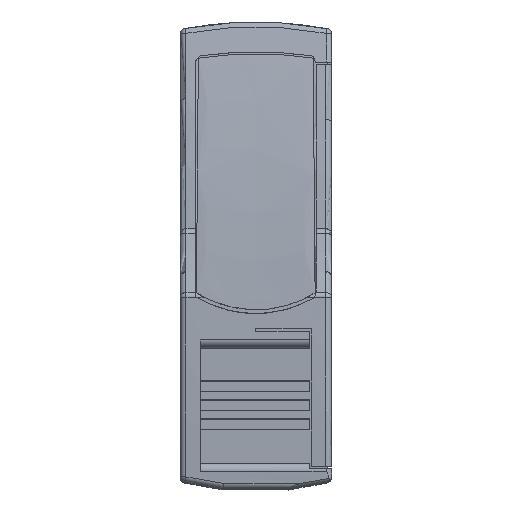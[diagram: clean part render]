
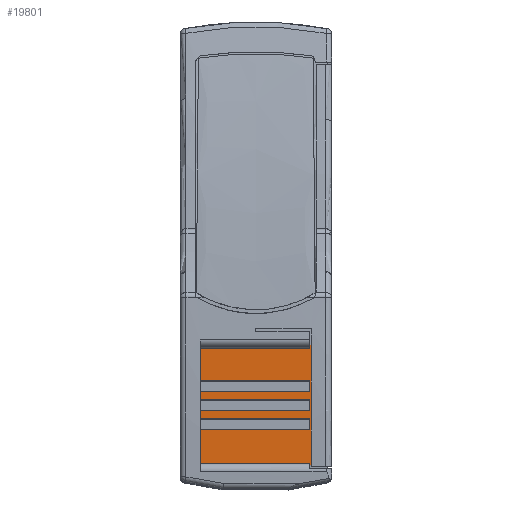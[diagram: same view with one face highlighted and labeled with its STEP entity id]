
A CAD part, top view. The second image highlights one B-rep face of the part: STEP entity #19801.
In plain terms, the highlighted planar face has unit normal (0, -0.052, 0.999).
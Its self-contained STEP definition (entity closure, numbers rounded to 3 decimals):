
#4701=DIRECTION('',(0.,-0.999,-0.052));
#4702=VECTOR('',#4701,0.5);
#4703=CARTESIAN_POINT('',(-2.9,-6.809,60.171));
#4704=LINE('',#4703,#4702);
#4717=DIRECTION('',(0.,-0.999,-0.052));
#4718=VECTOR('',#4717,0.5);
#4719=CARTESIAN_POINT('',(-2.9,-7.808,60.118));
#4720=LINE('',#4719,#4718);
#4733=DIRECTION('',(0.,-0.999,-0.052));
#4734=VECTOR('',#4733,1.913);
#4735=CARTESIAN_POINT('',(-2.9,-8.806,60.066));
#4736=LINE('',#4735,#4734);
#4778=DIRECTION('',(0.,-0.999,-0.052));
#4779=VECTOR('',#4778,1.913);
#4780=CARTESIAN_POINT('',(-2.9,-4.4,60.297));
#4781=LINE('',#4780,#4779);
#4782=DIRECTION('',(-1.,0.,0.));
#4783=VECTOR('',#4782,5.7);
#4784=CARTESIAN_POINT('',(2.8,-6.31,60.197));
#4785=LINE('',#4784,#4783);
#4786=DIRECTION('',(-1.,0.,0.));
#4787=VECTOR('',#4786,5.8);
#4788=CARTESIAN_POINT('',(2.9,-10.716,59.966));
#4789=LINE('',#4788,#4787);
#4790=DIRECTION('',(0.,-0.999,-0.052));
#4791=VECTOR('',#4790,0.5);
#4792=CARTESIAN_POINT('',(2.8,-6.31,60.197));
#4793=LINE('',#4792,#4791);
#4806=DIRECTION('',(1.,0.,0.));
#4807=VECTOR('',#4806,5.7);
#4808=CARTESIAN_POINT('',(-2.9,-6.809,60.171));
#4809=LINE('',#4808,#4807);
#4818=DIRECTION('',(-1.,0.,0.));
#4819=VECTOR('',#4818,5.8);
#4820=CARTESIAN_POINT('',(2.9,-4.4,60.297));
#4821=LINE('',#4820,#4819);
#4920=DIRECTION('',(0.,0.999,0.052));
#4921=VECTOR('',#4920,6.325);
#4922=CARTESIAN_POINT('',(2.9,-10.716,59.966));
#4923=LINE('',#4922,#4921);
#5969=DIRECTION('',(1.,0.,0.));
#5970=VECTOR('',#5969,5.7);
#5971=CARTESIAN_POINT('',(-2.9,-8.806,60.066));
#5972=LINE('',#5971,#5970);
#5977=DIRECTION('',(0.,-0.999,-0.052));
#5978=VECTOR('',#5977,0.5);
#5979=CARTESIAN_POINT('',(2.8,-8.307,60.092));
#5980=LINE('',#5979,#5978);
#5997=DIRECTION('',(-1.,0.,0.));
#5998=VECTOR('',#5997,5.7);
#5999=CARTESIAN_POINT('',(2.8,-8.307,60.092));
#6000=LINE('',#5999,#5998);
#6001=DIRECTION('',(1.,0.,0.));
#6002=VECTOR('',#6001,5.7);
#6003=CARTESIAN_POINT('',(-2.9,-7.808,60.118));
#6004=LINE('',#6003,#6002);
#6013=DIRECTION('',(-1.,0.,0.));
#6014=VECTOR('',#6013,5.7);
#6015=CARTESIAN_POINT('',(2.8,-7.308,60.145));
#6016=LINE('',#6015,#6014);
#6017=DIRECTION('',(0.,-0.999,-0.052));
#6018=VECTOR('',#6017,0.5);
#6019=CARTESIAN_POINT('',(2.8,-7.308,60.145));
#6020=LINE('',#6019,#6018);
#11743=CARTESIAN_POINT('',(2.8,-6.31,60.197));
#11744=CARTESIAN_POINT('',(2.8,-6.809,60.171));
#11745=VERTEX_POINT('',#11743);
#11746=VERTEX_POINT('',#11744);
#11751=CARTESIAN_POINT('',(2.8,-7.308,60.145));
#11752=CARTESIAN_POINT('',(2.8,-7.808,60.118));
#11753=VERTEX_POINT('',#11751);
#11754=VERTEX_POINT('',#11752);
#11759=CARTESIAN_POINT('',(2.8,-8.307,60.092));
#11760=CARTESIAN_POINT('',(2.8,-8.806,60.066));
#11761=VERTEX_POINT('',#11759);
#11762=VERTEX_POINT('',#11760);
#11767=CARTESIAN_POINT('',(2.9,-10.716,59.966));
#11768=CARTESIAN_POINT('',(-2.9,-10.716,59.966));
#11769=VERTEX_POINT('',#11767);
#11770=VERTEX_POINT('',#11768);
#11775=CARTESIAN_POINT('',(-2.9,-6.809,60.171));
#11776=VERTEX_POINT('',#11775);
#11777=CARTESIAN_POINT('',(-2.9,-7.308,60.145));
#11778=VERTEX_POINT('',#11777);
#11779=CARTESIAN_POINT('',(-2.9,-7.808,60.118));
#11780=VERTEX_POINT('',#11779);
#11781=CARTESIAN_POINT('',(-2.9,-8.307,60.092));
#11782=VERTEX_POINT('',#11781);
#11783=CARTESIAN_POINT('',(-2.9,-8.806,60.066));
#11784=VERTEX_POINT('',#11783);
#11785=CARTESIAN_POINT('',(2.9,-4.4,60.297));
#11786=VERTEX_POINT('',#11785);
#11787=CARTESIAN_POINT('',(-2.9,-4.4,60.297));
#11788=VERTEX_POINT('',#11787);
#11789=CARTESIAN_POINT('',(-2.9,-6.31,60.197));
#11790=VERTEX_POINT('',#11789);
#19767=CARTESIAN_POINT('',(0.,-7.558,60.131));
#19768=DIRECTION('',(0.,-0.052,0.999));
#19769=DIRECTION('',(-1.,0.,0.));
#19770=AXIS2_PLACEMENT_3D('',#19767,#19768,#19769);
#19771=PLANE('',#19770);
#19773=ORIENTED_EDGE('',*,*,#19772,.F.);
#19774=ORIENTED_EDGE('',*,*,#19757,.T.);
#19775=ORIENTED_EDGE('',*,*,#19747,.F.);
#19777=ORIENTED_EDGE('',*,*,#19776,.F.);
#19779=ORIENTED_EDGE('',*,*,#19778,.F.);
#19781=ORIENTED_EDGE('',*,*,#19780,.T.);
#19782=ORIENTED_EDGE('',*,*,#19725,.F.);
#19784=ORIENTED_EDGE('',*,*,#19783,.T.);
#19786=ORIENTED_EDGE('',*,*,#19785,.F.);
#19788=ORIENTED_EDGE('',*,*,#19787,.T.);
#19789=ORIENTED_EDGE('',*,*,#19717,.F.);
#19791=ORIENTED_EDGE('',*,*,#19790,.T.);
#19793=ORIENTED_EDGE('',*,*,#19792,.F.);
#19795=ORIENTED_EDGE('',*,*,#19794,.T.);
#19796=ORIENTED_EDGE('',*,*,#19709,.F.);
#19798=ORIENTED_EDGE('',*,*,#19797,.T.);
#19799=EDGE_LOOP('',(#19773,#19774,#19775,#19777,#19779,#19781,#19782,#19784,
#19786,#19788,#19789,#19791,#19793,#19795,#19796,#19798));
#19800=FACE_OUTER_BOUND('',#19799,.F.);
#19801=ADVANCED_FACE('',(#19800),#19771,.T.);
#19709=EDGE_CURVE('',#11776,#11778,#4704,.T.);
#19717=EDGE_CURVE('',#11780,#11782,#4720,.T.);
#19725=EDGE_CURVE('',#11784,#11770,#4736,.T.);
#19747=EDGE_CURVE('',#11788,#11790,#4781,.T.);
#19757=EDGE_CURVE('',#11745,#11790,#4785,.T.);
#19772=EDGE_CURVE('',#11745,#11746,#4793,.T.);
#19776=EDGE_CURVE('',#11786,#11788,#4821,.T.);
#19778=EDGE_CURVE('',#11769,#11786,#4923,.T.);
#19780=EDGE_CURVE('',#11769,#11770,#4789,.T.);
#19783=EDGE_CURVE('',#11784,#11762,#5972,.T.);
#19785=EDGE_CURVE('',#11761,#11762,#5980,.T.);
#19787=EDGE_CURVE('',#11761,#11782,#6000,.T.);
#19790=EDGE_CURVE('',#11780,#11754,#6004,.T.);
#19792=EDGE_CURVE('',#11753,#11754,#6020,.T.);
#19794=EDGE_CURVE('',#11753,#11778,#6016,.T.);
#19797=EDGE_CURVE('',#11776,#11746,#4809,.T.);
